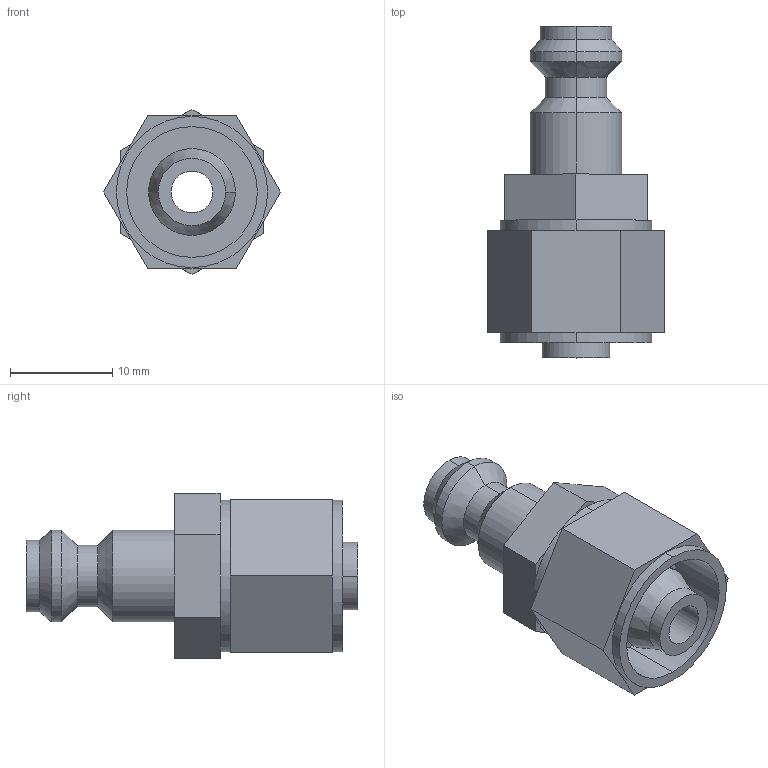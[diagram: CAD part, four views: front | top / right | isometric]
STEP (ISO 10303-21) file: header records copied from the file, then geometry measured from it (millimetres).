
FILE_DESCRIPTION (( 'STEP AP203' ), '1' );
FILE_NAME ('TZS-PP8.STEP', '2024-01-13T03:58:04', ( 'E.mc' ), ( 'E.mc' ), 'SwSTEP 2.0', 'SolidWorks 2017', '' );
FILE_SCHEMA (( 'CONFIG_CONTROL_DESIGN' ));
Length unit declared in the file: millimetre
Products named in the file (1): TZS-PP8
Bounding box: 17.32 x 32.5 x 16.17 mm (x, y, z)
Volume: 2801.3 mm3; surface area: 2474.3 mm2
Topology: 1 solids, 1 shells, 66 faces, 142 edges, 84 vertices
Faces by surface type: plane 32, cylinder 24, cone 10
Entity records: 1851 total; most frequent: DIRECTION 336, CARTESIAN_POINT 293, ORIENTED_EDGE 284, EDGE_CURVE 142, AXIS2_PLACEMENT_3D 127, VERTEX_POINT 84, VECTOR 82, LINE 82
